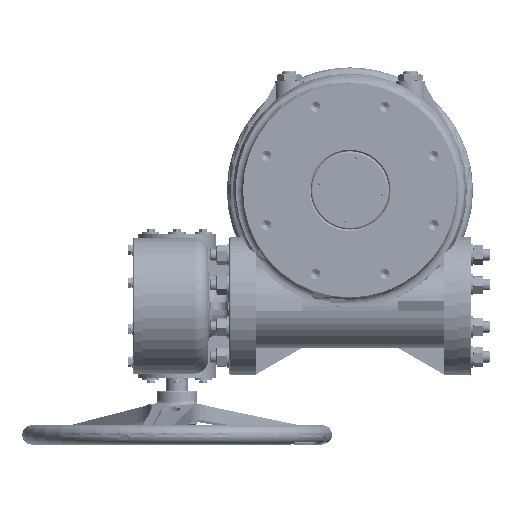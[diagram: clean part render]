
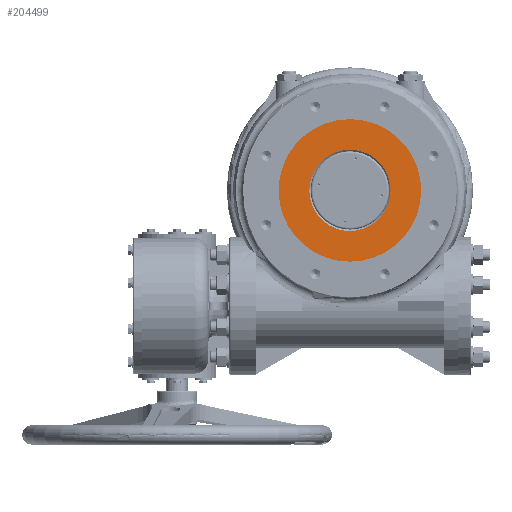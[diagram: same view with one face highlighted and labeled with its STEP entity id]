
A CAD part, front view. The second image highlights one B-rep face of the part: STEP entity #204499.
In plain terms, the highlighted planar face has unit normal (0, -1, 0).
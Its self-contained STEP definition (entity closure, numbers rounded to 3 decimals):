
#4017 = DIRECTION ( 'NONE',  ( 0., 0., -1. ) ) ;
#21988 = AXIS2_PLACEMENT_3D ( 'NONE', #107352, #190049, #4017 ) ;
#26135 = DIRECTION ( 'NONE',  ( 0., -1., 0. ) ) ;
#28850 = CARTESIAN_POINT ( 'NONE',  ( 0., 0., 0. ) ) ;
#42734 = VERTEX_POINT ( 'NONE', #192552 ) ;
#49517 = DIRECTION ( 'NONE',  ( 0., 0., -1. ) ) ;
#62461 = VERTEX_POINT ( 'NONE', #106890 ) ;
#82404 = DIRECTION ( 'NONE',  ( 0., -1., 0. ) ) ;
#90957 = EDGE_CURVE ( 'NONE', #62461, #205164, #105402, .T. ) ;
#93317 = EDGE_LOOP ( 'NONE', ( #119615, #121206 ) ) ;
#99590 = DIRECTION ( 'NONE',  ( 0., 0., -1. ) ) ;
#105402 = CIRCLE ( 'NONE', #106707, 57. ) ;
#106552 = EDGE_LOOP ( 'NONE', ( #142500, #209546 ) ) ;
#106707 = AXIS2_PLACEMENT_3D ( 'NONE', #28850, #212302, #49517 ) ;
#106890 = CARTESIAN_POINT ( 'NONE',  ( 0., 0., 57. ) ) ;
#107352 = CARTESIAN_POINT ( 'NONE',  ( 0., 0., 0. ) ) ;
#108844 = CARTESIAN_POINT ( 'NONE',  ( 0., 0., 0. ) ) ;
#119615 = ORIENTED_EDGE ( 'NONE', *, *, #250039, .T. ) ;
#121206 = ORIENTED_EDGE ( 'NONE', *, *, #90957, .T. ) ;
#138259 = EDGE_CURVE ( 'NONE', #42734, #140577, #155149, .T. ) ;
#140577 = VERTEX_POINT ( 'NONE', #262776 ) ;
#142500 = ORIENTED_EDGE ( 'NONE', *, *, #138259, .T. ) ;
#145007 = CARTESIAN_POINT ( 'NONE',  ( 0., 0., -57. ) ) ;
#155149 = CIRCLE ( 'NONE', #245737, 100. ) ;
#158527 = AXIS2_PLACEMENT_3D ( 'NONE', #263147, #222805, #99590 ) ;
#165079 = DIRECTION ( 'NONE',  ( 0., 0., -1. ) ) ;
#170226 = FACE_BOUND ( 'NONE', #93317, .T. ) ;
#181441 = EDGE_CURVE ( 'NONE', #140577, #42734, #223542, .T. ) ;
#184010 = AXIS2_PLACEMENT_3D ( 'NONE', #250376, #82404, #165079 ) ;
#184868 = PLANE ( 'NONE',  #184010 ) ;
#190049 = DIRECTION ( 'NONE',  ( 0., 1., 0. ) ) ;
#192552 = CARTESIAN_POINT ( 'NONE',  ( 0., 0., -100. ) ) ;
#204499 = ADVANCED_FACE ( 'NONE', ( #170226, #208961 ), #184868, .T. ) ;
#205164 = VERTEX_POINT ( 'NONE', #145007 ) ;
#208961 = FACE_OUTER_BOUND ( 'NONE', #106552, .T. ) ;
#209546 = ORIENTED_EDGE ( 'NONE', *, *, #181441, .T. ) ;
#212302 = DIRECTION ( 'NONE',  ( 0., 1., 0. ) ) ;
#222805 = DIRECTION ( 'NONE',  ( 0., -1., 0. ) ) ;
#223542 = CIRCLE ( 'NONE', #158527, 100. ) ;
#245737 = AXIS2_PLACEMENT_3D ( 'NONE', #108844, #26135, #249983 ) ;
#249983 = DIRECTION ( 'NONE',  ( 0., 0., -1. ) ) ;
#250039 = EDGE_CURVE ( 'NONE', #205164, #62461, #261975, .T. ) ;
#250376 = CARTESIAN_POINT ( 'NONE',  ( 55., 0., 0. ) ) ;
#261975 = CIRCLE ( 'NONE', #21988, 57. ) ;
#262776 = CARTESIAN_POINT ( 'NONE',  ( 0., 0., 100. ) ) ;
#263147 = CARTESIAN_POINT ( 'NONE',  ( 0., 0., 0. ) ) ;
